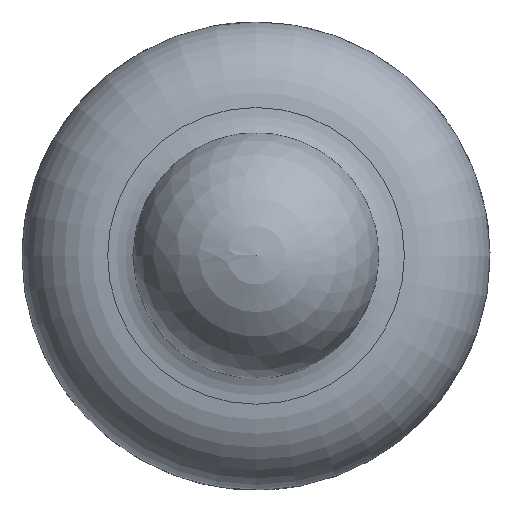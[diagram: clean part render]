
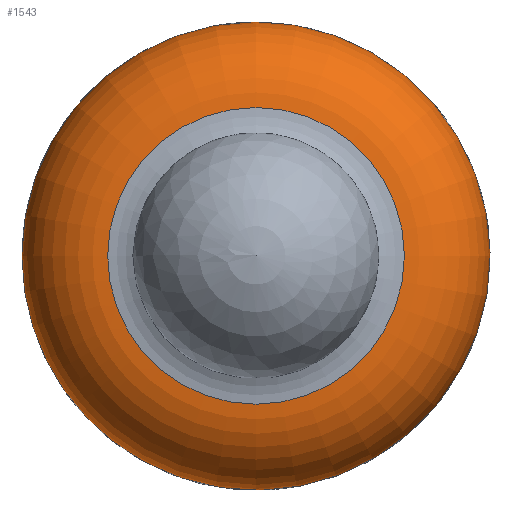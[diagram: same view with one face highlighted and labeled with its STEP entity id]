
A CAD part, top view. The second image highlights one B-rep face of the part: STEP entity #1543.
In plain terms, the highlighted toroidal (fillet/blend) face has major radius 10.373 mm and minor radius 6.435 mm.
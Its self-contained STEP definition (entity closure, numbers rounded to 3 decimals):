
#131=TOROIDAL_SURFACE('',#1649,10.373,6.435);
#154=FACE_OUTER_BOUND('',#238,.T.);
#238=EDGE_LOOP('',(#1046,#1047,#1048,#1049,#1050,#1051));
#324=CIRCLE('',#1646,10.656);
#326=CIRCLE('',#1648,10.656);
#327=CIRCLE('',#1650,6.435);
#328=CIRCLE('',#1651,16.808);
#329=CIRCLE('',#1652,16.808);
#621=VERTEX_POINT('',#2342);
#622=VERTEX_POINT('',#2343);
#623=VERTEX_POINT('',#2348);
#624=VERTEX_POINT('',#2350);
#789=EDGE_CURVE('',#621,#622,#324,.T.);
#791=EDGE_CURVE('',#622,#621,#326,.T.);
#792=EDGE_CURVE('',#622,#623,#327,.T.);
#793=EDGE_CURVE('',#623,#624,#328,.T.);
#794=EDGE_CURVE('',#624,#623,#329,.T.);
#1046=ORIENTED_EDGE('',*,*,#789,.F.);
#1047=ORIENTED_EDGE('',*,*,#791,.F.);
#1048=ORIENTED_EDGE('',*,*,#792,.T.);
#1049=ORIENTED_EDGE('',*,*,#793,.T.);
#1050=ORIENTED_EDGE('',*,*,#794,.T.);
#1051=ORIENTED_EDGE('',*,*,#792,.F.);
#1543=ADVANCED_FACE('',(#154),#131,.T.);
#1646=AXIS2_PLACEMENT_3D('',#2344,#1851,#1852);
#1648=AXIS2_PLACEMENT_3D('',#2346,#1855,#1856);
#1649=AXIS2_PLACEMENT_3D('',#2347,#1857,#1858);
#1650=AXIS2_PLACEMENT_3D('',#2349,#1859,#1860);
#1651=AXIS2_PLACEMENT_3D('',#2351,#1861,#1862);
#1652=AXIS2_PLACEMENT_3D('',#2352,#1863,#1864);
#1851=DIRECTION('center_axis',(0.,0.,1.));
#1852=DIRECTION('ref_axis',(1.,0.,0.));
#1855=DIRECTION('center_axis',(0.,0.,1.));
#1856=DIRECTION('ref_axis',(1.,0.,0.));
#1857=DIRECTION('center_axis',(0.,0.,1.));
#1858=DIRECTION('ref_axis',(1.,0.,0.));
#1859=DIRECTION('center_axis',(0.,-1.,0.));
#1860=DIRECTION('ref_axis',(-1.,0.,0.));
#1861=DIRECTION('center_axis',(0.,0.,1.));
#1862=DIRECTION('ref_axis',(1.,0.,0.));
#1863=DIRECTION('center_axis',(0.,0.,1.));
#1864=DIRECTION('ref_axis',(1.,0.,0.));
#2342=CARTESIAN_POINT('',(10.656,0.,15.329));
#2343=CARTESIAN_POINT('',(-10.656,0.,15.329));
#2344=CARTESIAN_POINT('Origin',(0.,0.,15.329));
#2346=CARTESIAN_POINT('Origin',(0.,0.,15.329));
#2347=CARTESIAN_POINT('Origin',(0.,0.,8.9));
#2348=CARTESIAN_POINT('',(-16.808,0.,8.9));
#2349=CARTESIAN_POINT('Origin',(-10.373,0.,
8.9));
#2350=CARTESIAN_POINT('',(-8.055,-14.752,8.9));
#2351=CARTESIAN_POINT('Origin',(0.,0.,8.9));
#2352=CARTESIAN_POINT('Origin',(0.,0.,8.9));
